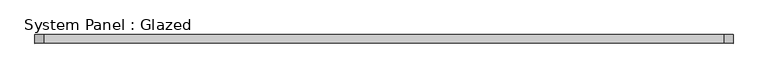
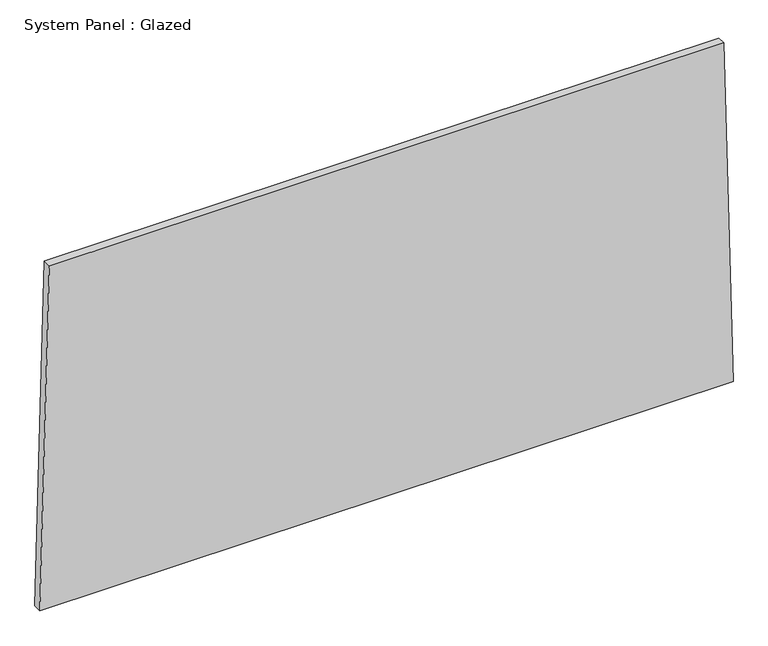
"""IFC4 building model written with IfcOpenShell, lengths in millimetres: plate geometry, System Panel : Glazed."""

from ifc_helpers import new_model, si_unit, frame, origin, place, context, project, spatial, polyline, outline, extrude, source, transform, mapped, element, save


def system_panel_glazed_70fdd375(model_context):
    return source(origin(), model_context, "Body", "SweptSolid", [
        extrude(outline(polyline([(0.0, -1022.9539556), (0.0, 1022.9539556), (1066.4364867, 995.1068757), (1066.4364867, -995.1068757), (0.0, -1022.9539556)])), frame((0.0, -49.5, 0.0), z_axis=(0.0, 1.0, 0.0), x_axis=(0.0, 0.0, 1.0)), (0.0, 0.0, 1.0), 25.0),
    ])


if __name__ == "__main__":
    model = new_model("IFC4")
    model_context = context("Model", 3, world=origin())
    ifc_project = project(units=[si_unit("LENGTHUNIT", "METRE", prefix="MILLI")], contexts=[model_context])
    site = spatial("IfcSite", under=ifc_project)
    building = spatial("IfcBuilding", under=site)
    placement = place(None, origin())
    system_panel_glazed_shape = system_panel_glazed_70fdd375(model_context)
    element("IfcPlate", 1, ObjectType="System Panel : Glazed", at=placement, inside=building, context=model_context, shape_type="MappedRepresentation", body=[
        mapped(system_panel_glazed_shape, transform((0.0, 0.0, 0.0), x_axis=(1.0, 0.0, 0.0), y_axis=(0.0, 1.0, 0.0), z_axis=(0.0, 0.0, 1.0))),
    ])
    save(model, "model.ifc")
